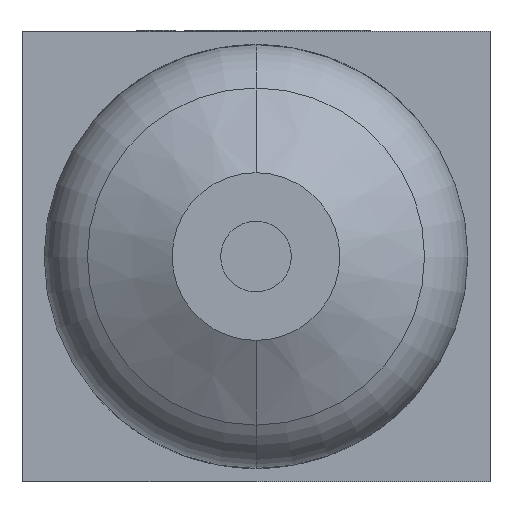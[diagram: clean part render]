
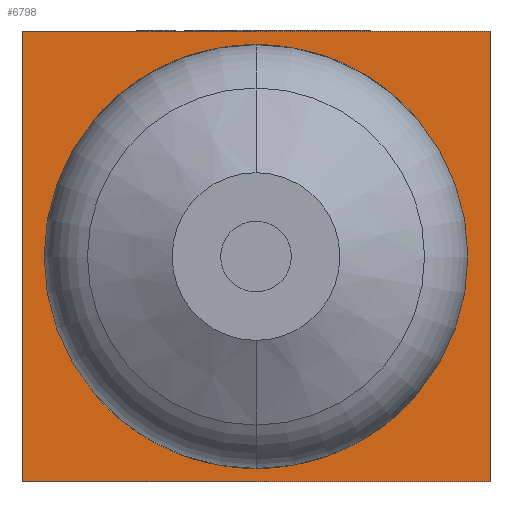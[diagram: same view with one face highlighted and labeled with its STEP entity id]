
A CAD part, front view. The second image highlights one B-rep face of the part: STEP entity #6798.
In plain terms, the highlighted planar face has unit normal (0, -1, 0).
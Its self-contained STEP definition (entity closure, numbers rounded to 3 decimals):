
#339 = CARTESIAN_POINT ( 'NONE',  ( -26.5, -25.5, -25.5 ) ) ;
#743 = LINE ( 'NONE', #5980, #2994 ) ;
#1012 = VERTEX_POINT ( 'NONE', #6451 ) ;
#1398 = ORIENTED_EDGE ( 'NONE', *, *, #1484, .T. ) ;
#1438 = EDGE_CURVE ( 'NONE', #1829, #1012, #2151, .T. ) ;
#1484 = EDGE_CURVE ( 'NONE', #3445, #1829, #6150, .T. ) ;
#1669 = ORIENTED_EDGE ( 'NONE', *, *, #2839, .F. ) ;
#1829 = VERTEX_POINT ( 'NONE', #3502 ) ;
#2151 = LINE ( 'NONE', #339, #2275 ) ;
#2275 = VECTOR ( 'NONE', #3620, 1000. ) ;
#2413 = CARTESIAN_POINT ( 'NONE',  ( -26.5, -25.5, 25.5 ) ) ;
#2461 = DIRECTION ( 'NONE',  ( 1., 0., 0. ) ) ;
#2646 = VECTOR ( 'NONE', #4554, 1000. ) ;
#2757 = FACE_OUTER_BOUND ( 'NONE', #5683, .T. ) ;
#2839 = EDGE_CURVE ( 'NONE', #3445, #8452, #4093, .T. ) ;
#2994 = VECTOR ( 'NONE', #6744, 1000. ) ;
#3123 = VECTOR ( 'NONE', #2461, 1000. ) ;
#3187 = CARTESIAN_POINT ( 'NONE',  ( 26.5, -25.5, 25.5 ) ) ;
#3445 = VERTEX_POINT ( 'NONE', #5410 ) ;
#3502 = CARTESIAN_POINT ( 'NONE',  ( -26.5, -25.5, -25.5 ) ) ;
#3620 = DIRECTION ( 'NONE',  ( 1., 0., 0. ) ) ;
#4093 = LINE ( 'NONE', #8963, #3123 ) ;
#4554 = DIRECTION ( 'NONE',  ( 0., 0., -1. ) ) ;
#4808 = DIRECTION ( 'NONE',  ( 0., 1., 0. ) ) ;
#4915 = ORIENTED_EDGE ( 'NONE', *, *, #1438, .T. ) ;
#5410 = CARTESIAN_POINT ( 'NONE',  ( -26.5, -25.5, 25.5 ) ) ;
#5616 = DIRECTION ( 'NONE',  ( -1., 0., 0. ) ) ;
#5683 = EDGE_LOOP ( 'NONE', ( #4915, #8848, #1669, #1398 ) ) ;
#5980 = CARTESIAN_POINT ( 'NONE',  ( 26.5, -25.5, 25.5 ) ) ;
#6150 = LINE ( 'NONE', #7614, #2646 ) ;
#6451 = CARTESIAN_POINT ( 'NONE',  ( 26.5, -25.5, -25.5 ) ) ;
#6744 = DIRECTION ( 'NONE',  ( 0., 0., -1. ) ) ;
#6798 = ADVANCED_FACE ( 'NONE', ( #2757 ), #8398, .F. ) ;
#7547 = EDGE_CURVE ( 'NONE', #8452, #1012, #743, .T. ) ;
#7586 = AXIS2_PLACEMENT_3D ( 'NONE', #2413, #4808, #5616 ) ;
#7614 = CARTESIAN_POINT ( 'NONE',  ( -26.5, -25.5, 25.5 ) ) ;
#8398 = PLANE ( 'NONE',  #7586 ) ;
#8452 = VERTEX_POINT ( 'NONE', #3187 ) ;
#8848 = ORIENTED_EDGE ( 'NONE', *, *, #7547, .F. ) ;
#8963 = CARTESIAN_POINT ( 'NONE',  ( -26.5, -25.5, 25.5 ) ) ;
